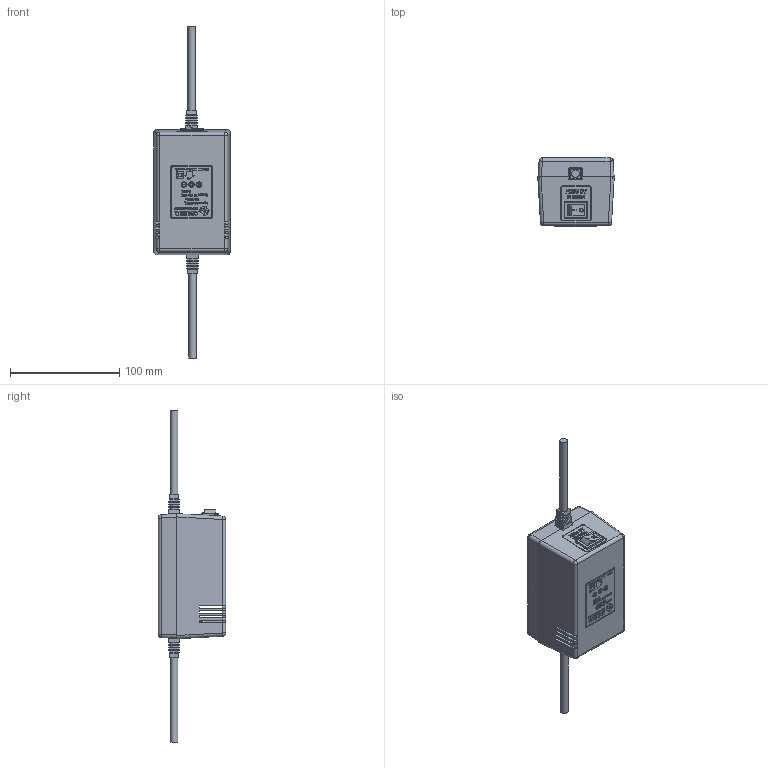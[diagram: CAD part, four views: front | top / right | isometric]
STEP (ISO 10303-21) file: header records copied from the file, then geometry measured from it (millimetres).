
FILE_DESCRIPTION(/* description */ (''),/* implementation_level */ '2;1');
FILE_NAME(/* name */ 'Y:\IvDoronin\- Фотоприемники -\- Модели -\4. Аксесуары для фотоприемников\AC.DC Adapter 12V-0,45A\СБП1-17.002 МС Сетевой блок питания. Корпус Z16_Shrinkwrap 12V-0,45A.stp',/* time_stamp */ '2019-09-13T18:39:36+03:00',/* author */ ('svlad'),/* organization */ (''),/* preprocessor_version */ 'ST-DEVELOPER v17',/* originating_system */ 'Autodesk Inventor 2019',/* authorisation */ '');
FILE_SCHEMA (('AUTOMOTIVE_DESIGN { 1 0 10303 214 3 1 1 }'));
Products named in the file (1): СБП1-17.002 МС Сетевой 
блок питания. Корпус 
Z16_Shrinkwrap 12V-0,45A
Bounding box: 70.05 x 62.3 x 304.25 mm (x, y, z)
Volume: 118401.6 mm3; surface area: 86433.7 mm2
Topology: 1 solids, 1 shells, 2080 faces, 5664 edges, 3750 vertices
Faces by surface type: plane 1406, bspline 435, cylinder 207, sphere 16, cone 12, torus 4
Full cylindrical faces by diameter (mm): 1.8 x2, 2 x2, 2.3 x4, 2.4 x4, 3.9 x4, 4 x2, 6 x4, 7 x2
Entity records: 76057 total; most frequent: CARTESIAN_POINT 23775, ORIENTED_EDGE 11310, DIRECTION 8539, EDGE_CURVE 5655, LINE 4307, VECTOR 4307, VERTEX_POINT 3750, EDGE_LOOP 2299
